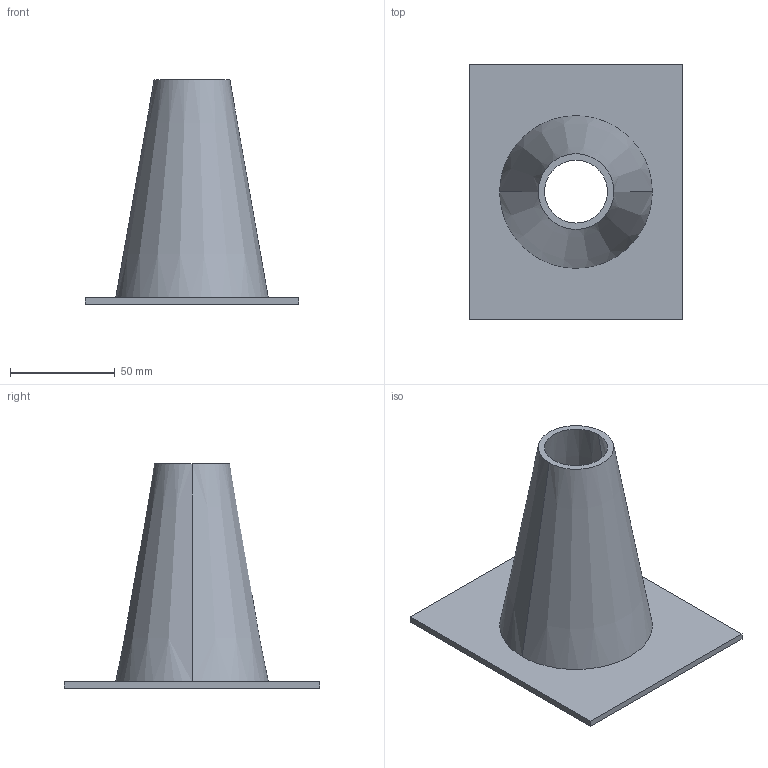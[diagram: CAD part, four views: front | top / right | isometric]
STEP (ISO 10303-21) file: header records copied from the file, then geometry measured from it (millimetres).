
FILE_DESCRIPTION(('CATIA V5 STEP Exchange'),'2;1');
FILE_NAME('C:\_Andres\UNIVERSIDAD\IQS\ASIGNATURAS\DAO\EXF\EXF-15161c\1original\Hoque_Tumanguil_Ej08-ensambla_v12.stp','2016-03-04T21:37:16+00:00',('none'),('none'),'CATIA Version 5 Release 20 SP 1 (IN-10)','CATIA V5 STEP AP203','none');
FILE_SCHEMA(('CONFIG_CONTROL_DESIGN'));
Length unit declared in the file: millimetre
Products named in the file (1): Hoque_Tumanguil_Ej08-ensambla_v12
Bounding box: 102 x 122 x 107 mm (x, y, z)
Volume: 77832.4 mm3; surface area: 53524.3 mm2
Topology: 1 solids, 1 shells, 11 faces, 24 edges, 16 vertices
Faces by surface type: plane 7, cone 4
Entity records: 414 total; most frequent: CARTESIAN_POINT 127, ORIENTED_EDGE 48, DIRECTION 44, EDGE_CURVE 24, AXIS2_PLACEMENT_3D 17, VECTOR 16, LINE 16, VERTEX_POINT 16
